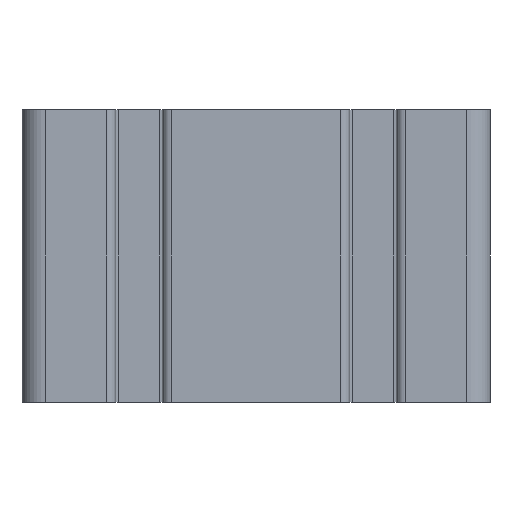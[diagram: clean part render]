
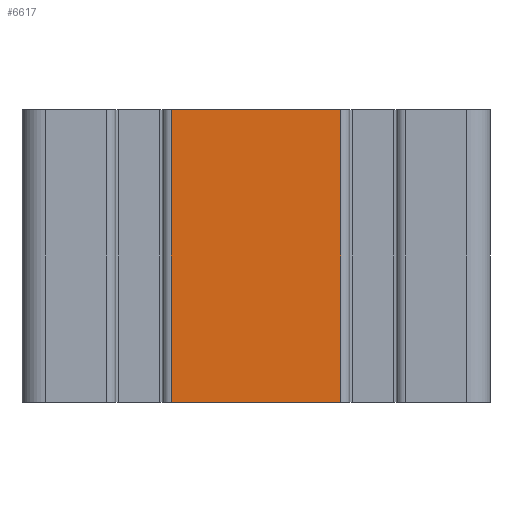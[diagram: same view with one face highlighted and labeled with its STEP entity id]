
A CAD part, front view. The second image highlights one B-rep face of the part: STEP entity #6617.
In plain terms, the highlighted planar face has unit normal (0, -1, 0).
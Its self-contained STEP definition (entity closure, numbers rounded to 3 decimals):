
#631 = PLANE ( 'NONE',  #7176 ) ;
#632 = CARTESIAN_POINT ( 'NONE',  ( 25.5, 0., -30. ) ) ;
#633 = DIRECTION ( 'NONE',  ( 0., -1., 0. ) ) ;
#634 = DIRECTION ( 'NONE',  ( 1., 0., 0. ) ) ;
#4039 = EDGE_LOOP ( 'NONE', ( #6841, #6840, #6839, #6838 ) ) ;
#4135 = VERTEX_POINT ( 'NONE', #6462 ) ;
#4138 = VERTEX_POINT ( 'NONE', #6465 ) ;
#4155 = VERTEX_POINT ( 'NONE', #6482 ) ;
#4239 = VERTEX_POINT ( 'NONE', #6486 ) ;
#4505 = LINE ( 'NONE', #4506, #6282 ) ;
#4506 = CARTESIAN_POINT ( 'NONE',  ( 54.5, 0., -30. ) ) ;
#4507 = DIRECTION ( 'NONE',  ( 0., 0., 1. ) ) ;
#4514 = LINE ( 'NONE', #4515, #6284 ) ;
#4515 = CARTESIAN_POINT ( 'NONE',  ( 25.5, 0., -30. ) ) ;
#4516 = DIRECTION ( 'NONE',  ( 0., 0., 1. ) ) ;
#4517 = LINE ( 'NONE', #4518, #6285 ) ;
#4518 = CARTESIAN_POINT ( 'NONE',  ( 25.5, 0., 20. ) ) ;
#4519 = DIRECTION ( 'NONE',  ( 1., 0., 0. ) ) ;
#4520 = LINE ( 'NONE', #4521, #6286 ) ;
#4521 = CARTESIAN_POINT ( 'NONE',  ( 25.5, 0., -30. ) ) ;
#4522 = DIRECTION ( 'NONE',  ( 1., 0., 0. ) ) ;
#6282 = VECTOR ( 'NONE', #4507, 1000. ) ;
#6284 = VECTOR ( 'NONE', #4516, 1000. ) ;
#6285 = VECTOR ( 'NONE', #4519, 1000. ) ;
#6286 = VECTOR ( 'NONE', #4522, 1000. ) ;
#6462 = CARTESIAN_POINT ( 'NONE',  ( 25.5, 0., 20. ) ) ;
#6465 = CARTESIAN_POINT ( 'NONE',  ( 54.5, 0., -30. ) ) ;
#6482 = CARTESIAN_POINT ( 'NONE',  ( 25.5, 0., -30. ) ) ;
#6486 = CARTESIAN_POINT ( 'NONE',  ( 54.5, 0., 20. ) ) ;
#6617 = ADVANCED_FACE ( 'NONE', ( #7172 ), #631, .T. ) ;
#6838 = ORIENTED_EDGE ( 'NONE', *, *, #7378, .T. ) ;
#6839 = ORIENTED_EDGE ( 'NONE', *, *, #7383, .T. ) ;
#6840 = ORIENTED_EDGE ( 'NONE', *, *, #7381, .F. ) ;
#6841 = ORIENTED_EDGE ( 'NONE', *, *, #7382, .F. ) ;
#7172 = FACE_OUTER_BOUND ( 'NONE', #4039, .T. ) ;
#7176 = AXIS2_PLACEMENT_3D ( 'NONE', #632, #633, #634 ) ;
#7378 = EDGE_CURVE ( 'NONE', #4138, #4239, #4505, .T. ) ;
#7381 = EDGE_CURVE ( 'NONE', #4155, #4135, #4514, .T. ) ;
#7382 = EDGE_CURVE ( 'NONE', #4135, #4239, #4517, .T. ) ;
#7383 = EDGE_CURVE ( 'NONE', #4155, #4138, #4520, .T. ) ;
